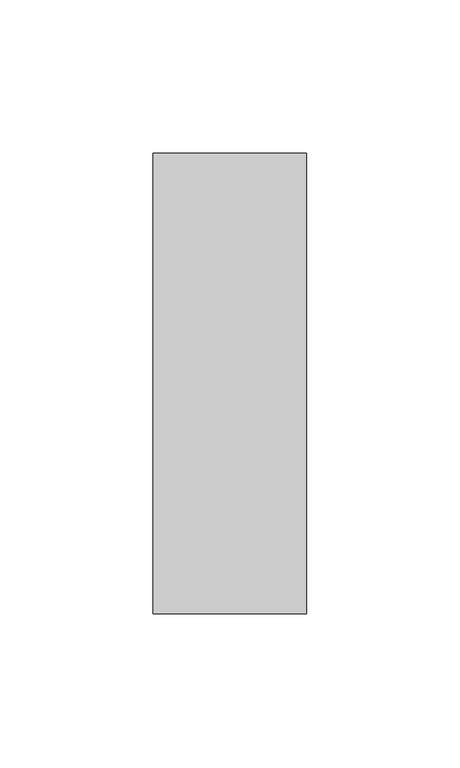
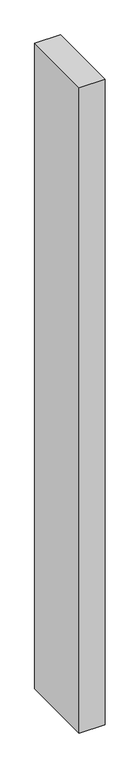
"""IFC4 building model written with IfcOpenShell, lengths in millimetres: member geometry, Прямоугольный импост : 50 x 150 мм."""

from ifc_helpers import new_model, si_unit, frame, origin, place, context, project, spatial, polyline, outline, extrude, source, transform, mapped, element, save


def member_406dbda3(model_context):
    return source(origin(), model_context, "Body", "SweptSolid", [
        extrude(outline(polyline([(25.0, 75.0), (25.0, -75.0), (-25.0, -75.0), (-25.0, 75.0), (25.0, 75.0)])), frame((0.0, 0.0, -1325.8279879), z_axis=(0.0, 0.0, 1.0), x_axis=(1.0, 0.0, 0.0)), (0.0, 0.0, 1.0), 1325.8279879),
    ])


if __name__ == "__main__":
    model = new_model("IFC4")
    model_context = context("Model", 3, world=origin())
    ifc_project = project(units=[si_unit("LENGTHUNIT", "METRE", prefix="MILLI")], contexts=[model_context])
    site = spatial("IfcSite", under=ifc_project)
    building = spatial("IfcBuilding", under=site)
    placement = place(None, origin())
    member_shape = member_406dbda3(model_context)
    element("IfcMember", 1, ObjectType="Прямоугольный импост : 50 x 150 мм", at=placement, inside=building, context=model_context, shape_type="MappedRepresentation", body=[
        mapped(member_shape, transform((0.0, 0.0, 0.0), x_axis=(1.0, 0.0, 0.0), y_axis=(0.0, 1.0, 0.0), z_axis=(0.0, 0.0, 1.0))),
    ])
    save(model, "model.ifc")
